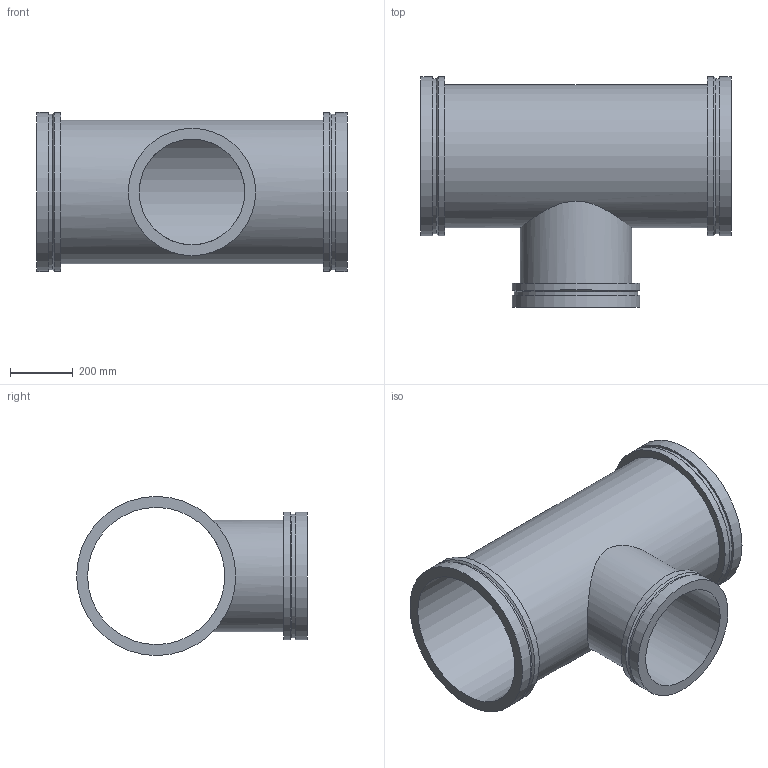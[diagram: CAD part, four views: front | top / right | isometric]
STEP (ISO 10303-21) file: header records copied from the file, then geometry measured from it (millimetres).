
FILE_DESCRIPTION(/* description */ ('VIC REDUCING TEE No W025 VR','CAx-IF Rec.Pracs.---Representation and Presentation of Product Manufacturing Information (PMI)---4.0---2014-10-13'),/* implementation_level */ '2;1');
FILE_NAME(/* name */ 'C:\Users\kkamble\AppData\Roaming\Autodesk\ApplicationPlugins\Back Up\Victaulic_Vic-Ring_Tee Reducing_No W25 VR (AGR)\Victaulic_Vic-Ring_Tee Reducing_No W25 VR (AGR)_18.0x14.0 (450x350).stp',/* time_stamp */ '2020-09-10T11:52:41+05:00',/* author */ ('mchristi'),/* organization */ ('Victaulic'),/* preprocessor_version */ 'ST-DEVELOPER v17.2',/* originating_system */ 'Autodesk Inventor 2019',/* authorisation */ '');
FILE_SCHEMA (('AP242_MANAGED_MODEL_BASED_3D_ENGINEERING_MIM_LF { 1 0 10303 442 1 1 4 }'));
Length unit declared in the file: inch
Products named in the file (1): W25 VR-18.0x14.0
Bounding box: 990.6 x 736.6 x 508 mm (x, y, z)
Volume: 23152604.2 mm3; surface area: 3553617.5 mm2
Topology: 1 solids, 1 shells, 25 faces, 68 edges, 52 vertices
Faces by surface type: cylinder 13, plane 9, cone 3
Full cylindrical faces by diameter (mm): 336.55 x1, 355.6 x1, 393.7 x1, 406.4 x2, 438.15 x1, 457.2 x1, 495.3 x2, 508 x4
Entity records: 1187 total; most frequent: CARTESIAN_POINT 343, DIRECTION 190, ORIENTED_EDGE 136, AXIS2_PLACEMENT_3D 87, EDGE_CURVE 68, VERTEX_POINT 52, CIRCLE 48, EDGE_LOOP 36
